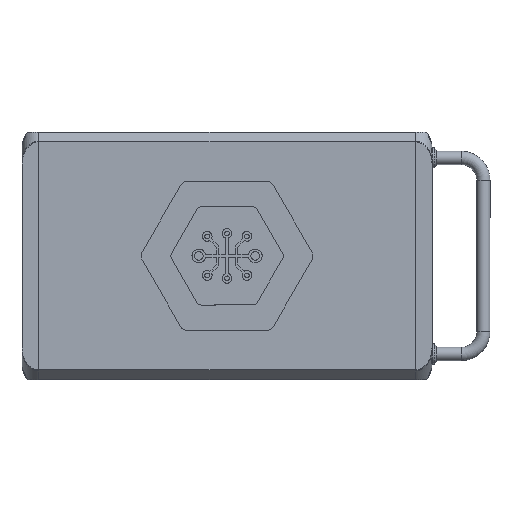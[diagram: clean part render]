
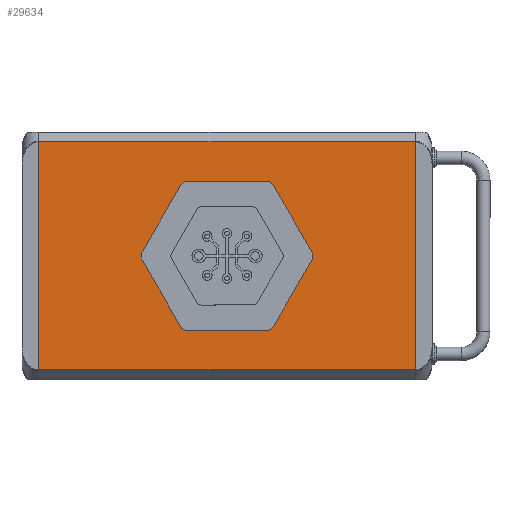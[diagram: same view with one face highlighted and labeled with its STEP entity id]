
A CAD part, top view. The second image highlights one B-rep face of the part: STEP entity #29634.
In plain terms, the highlighted planar face has unit normal (0, 0, 1).
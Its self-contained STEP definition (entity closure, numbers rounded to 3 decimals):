
#1053=B_SPLINE_CURVE_WITH_KNOTS('',3,(#42644,#42645,#42646,#42647),
 .UNSPECIFIED.,.F.,.F.,(4,4),(-0.422,0.),.UNSPECIFIED.);
#1054=B_SPLINE_CURVE_WITH_KNOTS('',3,(#42651,#42652,#42653,#42654),
 .UNSPECIFIED.,.F.,.F.,(4,4),(-0.422,0.),.UNSPECIFIED.);
#1055=B_SPLINE_CURVE_WITH_KNOTS('',3,(#42658,#42659,#42660,#42661),
 .UNSPECIFIED.,.F.,.F.,(4,4),(-0.422,0.),.UNSPECIFIED.);
#1056=B_SPLINE_CURVE_WITH_KNOTS('',3,(#42665,#42666,#42667,#42668),
 .UNSPECIFIED.,.F.,.F.,(4,4),(-0.422,0.),.UNSPECIFIED.);
#1057=B_SPLINE_CURVE_WITH_KNOTS('',3,(#42672,#42673,#42674,#42675),
 .UNSPECIFIED.,.F.,.F.,(4,4),(-0.424,0.),.UNSPECIFIED.);
#1058=B_SPLINE_CURVE_WITH_KNOTS('',3,(#42679,#42680,#42681,#42682),
 .UNSPECIFIED.,.F.,.F.,(4,4),(-0.428,0.),.UNSPECIFIED.);
#1336=FACE_BOUND('',#4364,.T.);
#2767=FACE_OUTER_BOUND('',#4363,.T.);
#4363=EDGE_LOOP('',(#19818,#19819,#19820,#19821,#19822,#19823,#19824,#19825));
#4364=EDGE_LOOP('',(#19826,#19827,#19828,#19829,#19830,#19831,#19832,#19833,
#19834,#19835,#19836,#19837,#19838));
#6318=LINE('',#42583,#9327);
#6320=LINE('',#42589,#9329);
#6328=LINE('',#42605,#9337);
#6331=LINE('',#42613,#9340);
#6341=LINE('',#42635,#9350);
#6342=LINE('',#42636,#9351);
#6343=LINE('',#42638,#9352);
#6344=LINE('',#42639,#9353);
#6345=LINE('',#42642,#9354);
#6346=LINE('',#42649,#9355);
#6347=LINE('',#42656,#9356);
#6348=LINE('',#42663,#9357);
#6349=LINE('',#42670,#9358);
#6350=LINE('',#42677,#9359);
#6351=LINE('',#42683,#9360);
#9327=VECTOR('',#34127,10.);
#9329=VECTOR('',#34131,10.);
#9337=VECTOR('',#34143,10.);
#9340=VECTOR('',#34150,10.);
#9350=VECTOR('',#34166,10.);
#9351=VECTOR('',#34167,10.);
#9352=VECTOR('',#34168,10.);
#9353=VECTOR('',#34169,10.);
#9354=VECTOR('',#34170,10.);
#9355=VECTOR('',#34171,10.);
#9356=VECTOR('',#34172,10.);
#9357=VECTOR('',#34173,10.);
#9358=VECTOR('',#34174,10.);
#9359=VECTOR('',#34175,10.);
#9360=VECTOR('',#34176,10.);
#12334=VERTEX_POINT('',#42577);
#12336=VERTEX_POINT('',#42581);
#12337=VERTEX_POINT('',#42585);
#12339=VERTEX_POINT('',#42588);
#12345=VERTEX_POINT('',#42604);
#12347=VERTEX_POINT('',#42610);
#12357=VERTEX_POINT('',#42634);
#12358=VERTEX_POINT('',#42637);
#12359=VERTEX_POINT('',#42640);
#12360=VERTEX_POINT('',#42641);
#12361=VERTEX_POINT('',#42643);
#12362=VERTEX_POINT('',#42648);
#12363=VERTEX_POINT('',#42650);
#12364=VERTEX_POINT('',#42655);
#12365=VERTEX_POINT('',#42657);
#12366=VERTEX_POINT('',#42662);
#12367=VERTEX_POINT('',#42664);
#12368=VERTEX_POINT('',#42669);
#12369=VERTEX_POINT('',#42671);
#12370=VERTEX_POINT('',#42676);
#12371=VERTEX_POINT('',#42678);
#15318=EDGE_CURVE('',#12334,#12336,#6318,.T.);
#15320=EDGE_CURVE('',#12339,#12337,#6320,.T.);
#15328=EDGE_CURVE('',#12345,#12334,#6328,.T.);
#15332=EDGE_CURVE('',#12337,#12347,#6331,.T.);
#15343=EDGE_CURVE('',#12357,#12339,#6341,.T.);
#15344=EDGE_CURVE('',#12345,#12347,#6342,.T.);
#15345=EDGE_CURVE('',#12336,#12358,#6343,.T.);
#15346=EDGE_CURVE('',#12357,#12358,#6344,.T.);
#15347=EDGE_CURVE('',#12359,#12360,#6345,.T.);
#15348=EDGE_CURVE('',#12360,#12361,#1053,.T.);
#15349=EDGE_CURVE('',#12361,#12362,#6346,.T.);
#15350=EDGE_CURVE('',#12362,#12363,#1054,.T.);
#15351=EDGE_CURVE('',#12363,#12364,#6347,.T.);
#15352=EDGE_CURVE('',#12364,#12365,#1055,.T.);
#15353=EDGE_CURVE('',#12365,#12366,#6348,.T.);
#15354=EDGE_CURVE('',#12366,#12367,#1056,.T.);
#15355=EDGE_CURVE('',#12367,#12368,#6349,.T.);
#15356=EDGE_CURVE('',#12368,#12369,#1057,.T.);
#15357=EDGE_CURVE('',#12369,#12370,#6350,.T.);
#15358=EDGE_CURVE('',#12370,#12371,#1058,.T.);
#15359=EDGE_CURVE('',#12371,#12359,#6351,.T.);
#19818=ORIENTED_EDGE('',*,*,#15343,.T.);
#19819=ORIENTED_EDGE('',*,*,#15320,.T.);
#19820=ORIENTED_EDGE('',*,*,#15332,.T.);
#19821=ORIENTED_EDGE('',*,*,#15344,.F.);
#19822=ORIENTED_EDGE('',*,*,#15328,.T.);
#19823=ORIENTED_EDGE('',*,*,#15318,.T.);
#19824=ORIENTED_EDGE('',*,*,#15345,.T.);
#19825=ORIENTED_EDGE('',*,*,#15346,.F.);
#19826=ORIENTED_EDGE('',*,*,#15347,.T.);
#19827=ORIENTED_EDGE('',*,*,#15348,.T.);
#19828=ORIENTED_EDGE('',*,*,#15349,.T.);
#19829=ORIENTED_EDGE('',*,*,#15350,.T.);
#19830=ORIENTED_EDGE('',*,*,#15351,.T.);
#19831=ORIENTED_EDGE('',*,*,#15352,.T.);
#19832=ORIENTED_EDGE('',*,*,#15353,.T.);
#19833=ORIENTED_EDGE('',*,*,#15354,.T.);
#19834=ORIENTED_EDGE('',*,*,#15355,.T.);
#19835=ORIENTED_EDGE('',*,*,#15356,.T.);
#19836=ORIENTED_EDGE('',*,*,#15357,.T.);
#19837=ORIENTED_EDGE('',*,*,#15358,.T.);
#19838=ORIENTED_EDGE('',*,*,#15359,.T.);
#28728=PLANE('',#31405);
#29634=ADVANCED_FACE('',(#2767,#1336),#28728,.F.);
#31405=AXIS2_PLACEMENT_3D('',#42633,#34164,#34165);
#34127=DIRECTION('',(1.,0.,0.));
#34131=DIRECTION('',(-1.,0.,0.));
#34143=DIRECTION('',(0.,-1.,0.));
#34150=DIRECTION('',(0.,-1.,0.));
#34164=DIRECTION('center_axis',(0.,0.,-1.));
#34165=DIRECTION('ref_axis',(0.,-1.,0.));
#34166=DIRECTION('',(0.,1.,0.));
#34167=DIRECTION('',(0.,1.,0.));
#34168=DIRECTION('',(0.,1.,0.));
#34169=DIRECTION('',(0.,-1.,0.));
#34170=DIRECTION('',(-1.,-0.001,0.));
#34171=DIRECTION('',(-0.499,0.866,0.));
#34172=DIRECTION('',(0.499,0.866,0.));
#34173=DIRECTION('',(1.,0.,0.));
#34174=DIRECTION('',(0.501,-0.865,0.));
#34175=DIRECTION('',(-0.501,-0.866,0.));
#34176=DIRECTION('',(0.707,0.707,0.));
#42577=CARTESIAN_POINT('',(65.431,-154.87,41.018));
#42581=CARTESIAN_POINT('',(234.431,-154.87,41.018));
#42583=CARTESIAN_POINT('',(238.181,-154.87,41.018));
#42585=CARTESIAN_POINT('',(65.431,-52.55,41.018));
#42588=CARTESIAN_POINT('',(234.431,-52.55,41.018));
#42589=CARTESIAN_POINT('',(238.181,-52.55,41.018));
#42604=CARTESIAN_POINT('',(65.431,-152.112,41.018));
#42605=CARTESIAN_POINT('',(65.431,-77.912,41.018));
#42610=CARTESIAN_POINT('',(65.431,-55.308,41.018));
#42613=CARTESIAN_POINT('',(65.431,-77.912,41.018));
#42633=CARTESIAN_POINT('Origin',(241.931,-52.115,41.018));
#42634=CARTESIAN_POINT('',(234.431,-55.308,41.018));
#42635=CARTESIAN_POINT('',(234.431,-77.912,41.018));
#42636=CARTESIAN_POINT('',(65.43,-77.912,41.018));
#42637=CARTESIAN_POINT('',(234.431,-152.112,41.018));
#42638=CARTESIAN_POINT('',(234.431,-77.912,41.018));
#42639=CARTESIAN_POINT('',(234.431,-77.912,41.018));
#42640=CARTESIAN_POINT('',(167.26,-137.274,41.018));
#42641=CARTESIAN_POINT('',(132.531,-137.316,41.018));
#42642=CARTESIAN_POINT('',(187.282,-137.25,41.018));
#42643=CARTESIAN_POINT('',(129.052,-135.308,41.018));
#42644=CARTESIAN_POINT('Ctrl Pts',(132.531,-137.316,41.018));
#42645=CARTESIAN_POINT('Ctrl Pts',(131.102,-137.316,41.018));
#42646=CARTESIAN_POINT('Ctrl Pts',(129.77,-136.556,41.018));
#42647=CARTESIAN_POINT('Ctrl Pts',(129.052,-135.308,41.018));
#42648=CARTESIAN_POINT('',(111.998,-105.718,41.018));
#42649=CARTESIAN_POINT('',(116.602,-113.706,41.018));
#42650=CARTESIAN_POINT('',(111.998,-101.709,41.018));
#42651=CARTESIAN_POINT('Ctrl Pts',(111.998,-105.718,41.018));
#42652=CARTESIAN_POINT('Ctrl Pts',(111.273,-104.484,41.018));
#42653=CARTESIAN_POINT('Ctrl Pts',(111.273,-102.95,41.018));
#42654=CARTESIAN_POINT('Ctrl Pts',(111.998,-101.709,41.018));
#42655=CARTESIAN_POINT('',(129.059,-72.119,41.018));
#42656=CARTESIAN_POINT('',(147.468,-40.191,41.018));
#42657=CARTESIAN_POINT('',(132.538,-70.111,41.018));
#42658=CARTESIAN_POINT('Ctrl Pts',(129.059,-72.119,41.018));
#42659=CARTESIAN_POINT('Ctrl Pts',(129.777,-70.871,41.018));
#42660=CARTESIAN_POINT('Ctrl Pts',(131.102,-70.111,41.018));
#42661=CARTESIAN_POINT('Ctrl Pts',(132.538,-70.111,41.018));
#42662=CARTESIAN_POINT('',(167.267,-70.111,41.018));
#42663=CARTESIAN_POINT('',(204.599,-70.111,41.018));
#42664=CARTESIAN_POINT('',(170.746,-72.112,41.018));
#42665=CARTESIAN_POINT('Ctrl Pts',(167.267,-70.111,41.018));
#42666=CARTESIAN_POINT('Ctrl Pts',(168.703,-70.111,41.018));
#42667=CARTESIAN_POINT('Ctrl Pts',(170.021,-70.871,41.018));
#42668=CARTESIAN_POINT('Ctrl Pts',(170.746,-72.112,41.018));
#42669=CARTESIAN_POINT('',(187.877,-101.702,41.018));
#42670=CARTESIAN_POINT('',(183.911,-94.851,41.018));
#42671=CARTESIAN_POINT('',(187.877,-105.732,41.018));
#42672=CARTESIAN_POINT('Ctrl Pts',(187.877,-101.702,41.018));
#42673=CARTESIAN_POINT('Ctrl Pts',(188.602,-102.95,41.018));
#42674=CARTESIAN_POINT('Ctrl Pts',(188.602,-104.484,41.018));
#42675=CARTESIAN_POINT('Ctrl Pts',(187.877,-105.732,41.018));
#42676=CARTESIAN_POINT('',(170.788,-135.28,41.018));
#42677=CARTESIAN_POINT('',(197.725,-88.704,41.018));
#42678=CARTESIAN_POINT('',(167.253,-137.281,41.018));
#42679=CARTESIAN_POINT('Ctrl Pts',(170.788,-135.28,41.018));
#42680=CARTESIAN_POINT('Ctrl Pts',(170.056,-136.542,41.018));
#42681=CARTESIAN_POINT('Ctrl Pts',(168.71,-137.302,41.018));
#42682=CARTESIAN_POINT('Ctrl Pts',(167.253,-137.281,41.018));
#42683=CARTESIAN_POINT('',(207.228,-97.329,41.018));
